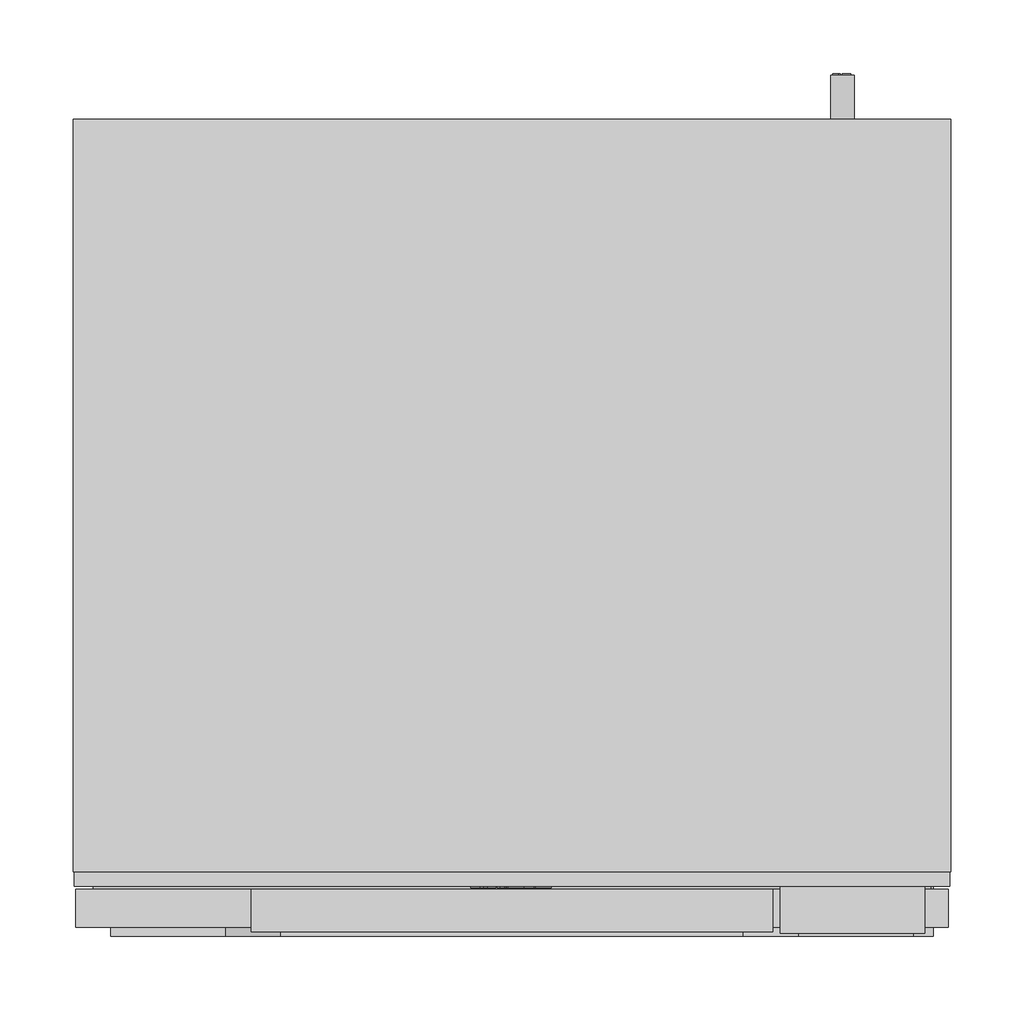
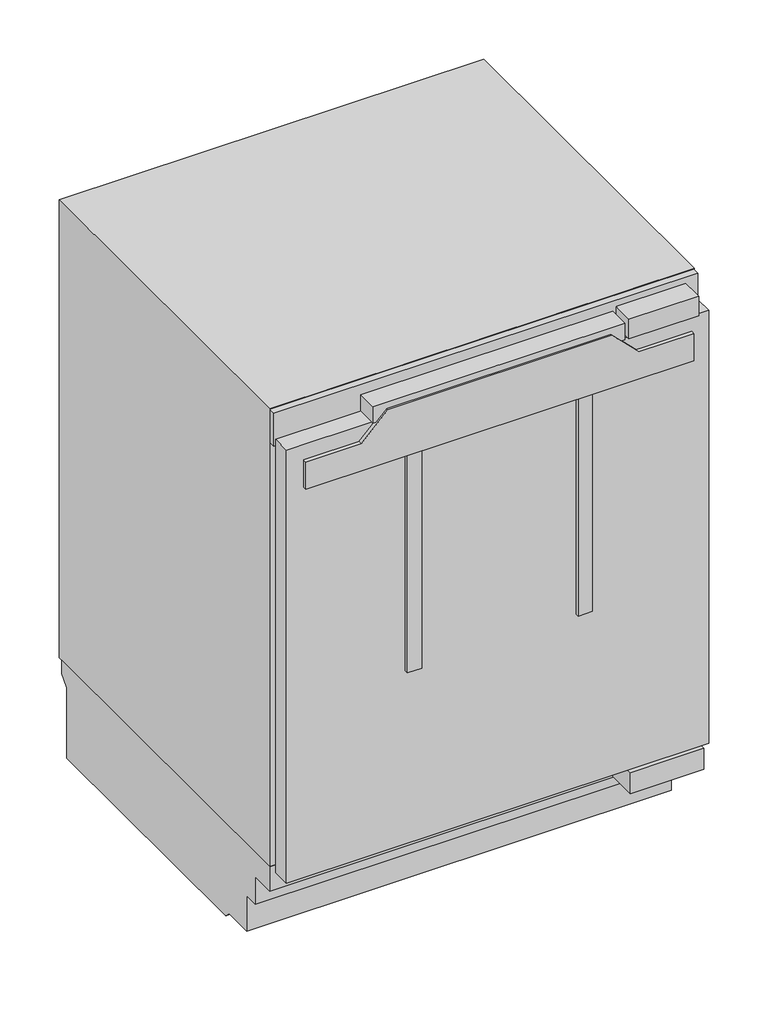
# Not in any storey: 1 proxy.
"""IFC4 building model written with IfcOpenShell, lengths in millimetres."""

from ifc_helpers import new_model, si_unit, origin, place, context, project, spatial, transform, mapped, element, save
from components import specialty_equipment_9a1d0be2

model = new_model("IFC4")

# Units and contexts
model_context = context("Model", 3, world=origin())
ifc_project = project(units=[si_unit("LENGTHUNIT", "METRE", prefix="MILLI")], contexts=[model_context])

# Site, building
site = spatial("IfcSite", under=ifc_project)
building = spatial("IfcBuilding", under=site)

# Proxy
placement = place(None, origin())
specialty_equipment_shape = specialty_equipment_9a1d0be2(model_context)
element("IfcBuildingElementProxy", 1, Name="12519090_EU1_KU7016D : 36701610_EU1_12519090_KU7016D", ObjectType="12519090_EU1_KU7016D : 36701610_EU1_12519090_KU7016D", at=placement, inside=building, context=model_context, shape_type="MappedRepresentation", body=[
    mapped(specialty_equipment_shape, transform((0.0, 0.0, 0.0), x_axis=(1.0, 0.0, 0.0), y_axis=(0.0, 1.0, 0.0), z_axis=(0.0, 0.0, 1.0))),
])

save(model, "model.ifc")
